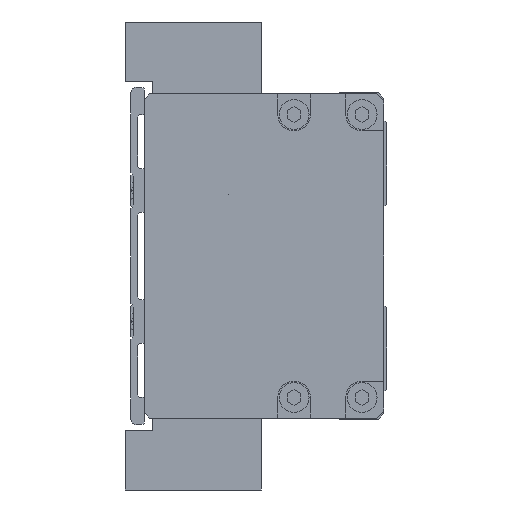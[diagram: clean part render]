
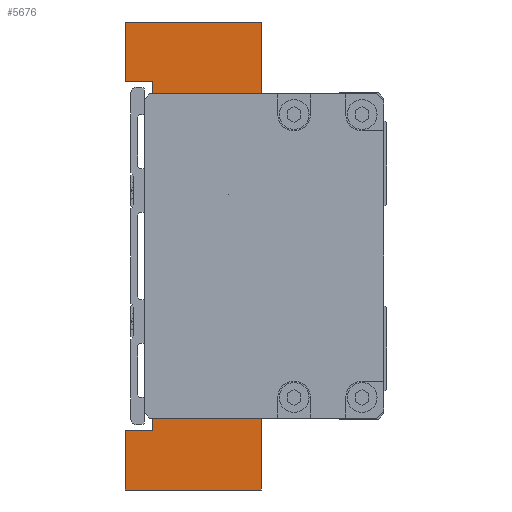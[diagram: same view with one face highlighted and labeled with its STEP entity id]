
A CAD part, left-side view. The second image highlights one B-rep face of the part: STEP entity #5676.
In plain terms, the highlighted planar face has unit normal (-1, 0, 0).
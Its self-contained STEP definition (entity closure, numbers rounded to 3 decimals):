
#113 = CARTESIAN_POINT ( 'NONE',  ( -77., 10., 21. ) ) ;
#220 = ORIENTED_EDGE ( 'NONE', *, *, #24045, .F. ) ;
#331 = VERTEX_POINT ( 'NONE', #3450 ) ;
#706 = CARTESIAN_POINT ( 'NONE',  ( -77., 25., 32. ) ) ;
#882 = DIRECTION ( 'NONE',  ( 0., -1., 0. ) ) ;
#1141 = LINE ( 'NONE', #3845, #4414 ) ;
#1205 = LINE ( 'NONE', #4265, #22970 ) ;
#1433 = EDGE_CURVE ( 'NONE', #9585, #9850, #24641, .T. ) ;
#1503 = VERTEX_POINT ( 'NONE', #23218 ) ;
#1765 = CARTESIAN_POINT ( 'NONE',  ( -77., 20., 32. ) ) ;
#1856 = LINE ( 'NONE', #13575, #11739 ) ;
#1953 = DIRECTION ( 'NONE',  ( 0., -1., 0. ) ) ;
#2100 = EDGE_CURVE ( 'NONE', #6749, #2668, #7409, .T. ) ;
#2294 = CARTESIAN_POINT ( 'NONE',  ( -77., 10., 21. ) ) ;
#2668 = VERTEX_POINT ( 'NONE', #12195 ) ;
#2875 = LINE ( 'NONE', #11184, #3837 ) ;
#2978 = DIRECTION ( 'NONE',  ( 0., 1., 0. ) ) ;
#3074 = CARTESIAN_POINT ( 'NONE',  ( -77., 25., -32. ) ) ;
#3316 = VERTEX_POINT ( 'NONE', #22501 ) ;
#3450 = CARTESIAN_POINT ( 'NONE',  ( -77., 20., -32. ) ) ;
#3514 = VERTEX_POINT ( 'NONE', #14501 ) ;
#3837 = VECTOR ( 'NONE', #5072, 1000. ) ;
#3845 = CARTESIAN_POINT ( 'NONE',  ( -77., 0., 28. ) ) ;
#4165 = VECTOR ( 'NONE', #17752, 1000. ) ;
#4231 = LINE ( 'NONE', #24236, #23061 ) ;
#4253 = LINE ( 'NONE', #8426, #10829 ) ;
#4255 = VERTEX_POINT ( 'NONE', #19059 ) ;
#4265 = CARTESIAN_POINT ( 'NONE',  ( -77., 25., 43. ) ) ;
#4364 = VECTOR ( 'NONE', #25717, 1000. ) ;
#4414 = VECTOR ( 'NONE', #18713, 1000. ) ;
#4420 = DIRECTION ( 'NONE',  ( 0., 0., -1. ) ) ;
#4450 = VECTOR ( 'NONE', #6369, 1000. ) ;
#4503 = EDGE_CURVE ( 'NONE', #17662, #331, #19888, .T. ) ;
#5072 = DIRECTION ( 'NONE',  ( 0., 1., 0. ) ) ;
#5112 = ORIENTED_EDGE ( 'NONE', *, *, #1433, .T. ) ;
#5676 = ADVANCED_FACE ( 'NONE', ( #16506 ), #10874, .F. ) ;
#6141 = VECTOR ( 'NONE', #24620, 1000. ) ;
#6369 = DIRECTION ( 'NONE',  ( 0., 0., -1. ) ) ;
#6749 = VERTEX_POINT ( 'NONE', #2294 ) ;
#7409 = LINE ( 'NONE', #113, #4450 ) ;
#7584 = CARTESIAN_POINT ( 'NONE',  ( -77., 10., 21. ) ) ;
#7707 = EDGE_CURVE ( 'NONE', #14064, #17995, #22649, .T. ) ;
#7749 = VERTEX_POINT ( 'NONE', #1765 ) ;
#7782 = CARTESIAN_POINT ( 'NONE',  ( -77., 25., -43. ) ) ;
#7971 = VECTOR ( 'NONE', #1953, 1000. ) ;
#8426 = CARTESIAN_POINT ( 'NONE',  ( -77., 0., -43. ) ) ;
#8430 = EDGE_CURVE ( 'NONE', #18780, #13111, #1141, .T. ) ;
#8547 = DIRECTION ( 'NONE',  ( 1., 0., 0. ) ) ;
#8600 = VECTOR ( 'NONE', #16830, 1000. ) ;
#8611 = VECTOR ( 'NONE', #882, 1000. ) ;
#9278 = LINE ( 'NONE', #17103, #8600 ) ;
#9585 = VERTEX_POINT ( 'NONE', #21757 ) ;
#9626 = DIRECTION ( 'NONE',  ( 0., 0., -1. ) ) ;
#9764 = LINE ( 'NONE', #706, #4165 ) ;
#9850 = VERTEX_POINT ( 'NONE', #9967 ) ;
#9967 = CARTESIAN_POINT ( 'NONE',  ( -77., 5., 21. ) ) ;
#10678 = VECTOR ( 'NONE', #20603, 1000. ) ;
#10829 = VECTOR ( 'NONE', #17046, 1000. ) ;
#10874 = PLANE ( 'NONE',  #14825 ) ;
#11118 = LINE ( 'NONE', #12187, #12691 ) ;
#11181 = CARTESIAN_POINT ( 'NONE',  ( -77., 5., -21. ) ) ;
#11184 = CARTESIAN_POINT ( 'NONE',  ( -77., 20., 32. ) ) ;
#11739 = VECTOR ( 'NONE', #2978, 1000. ) ;
#11826 = DIRECTION ( 'NONE',  ( 0., -1., 0. ) ) ;
#12121 = VECTOR ( 'NONE', #11826, 1000. ) ;
#12162 = EDGE_CURVE ( 'NONE', #331, #7749, #11118, .T. ) ;
#12187 = CARTESIAN_POINT ( 'NONE',  ( -77., 20., -32. ) ) ;
#12195 = CARTESIAN_POINT ( 'NONE',  ( -77., 10., -21. ) ) ;
#12336 = ORIENTED_EDGE ( 'NONE', *, *, #18131, .F. ) ;
#12469 = ORIENTED_EDGE ( 'NONE', *, *, #18330, .F. ) ;
#12691 = VECTOR ( 'NONE', #16360, 1000. ) ;
#12945 = ORIENTED_EDGE ( 'NONE', *, *, #7707, .F. ) ;
#13111 = VERTEX_POINT ( 'NONE', #19916 ) ;
#13277 = VERTEX_POINT ( 'NONE', #7782 ) ;
#13363 = CARTESIAN_POINT ( 'NONE',  ( -77., 25., -32. ) ) ;
#13575 = CARTESIAN_POINT ( 'NONE',  ( -77., 9., -21. ) ) ;
#13761 = VERTEX_POINT ( 'NONE', #16367 ) ;
#13938 = LINE ( 'NONE', #22977, #7971 ) ;
#14034 = ORIENTED_EDGE ( 'NONE', *, *, #2100, .F. ) ;
#14064 = VERTEX_POINT ( 'NONE', #11181 ) ;
#14092 = VERTEX_POINT ( 'NONE', #19572 ) ;
#14290 = EDGE_CURVE ( 'NONE', #13277, #17662, #14976, .T. ) ;
#14413 = ORIENTED_EDGE ( 'NONE', *, *, #15211, .F. ) ;
#14438 = ORIENTED_EDGE ( 'NONE', *, *, #22490, .T. ) ;
#14501 = CARTESIAN_POINT ( 'NONE',  ( -77., 25., 43. ) ) ;
#14586 = EDGE_CURVE ( 'NONE', #13111, #9850, #26526, .T. ) ;
#14825 = AXIS2_PLACEMENT_3D ( 'NONE', #23453, #8547, #4420 ) ;
#14976 = LINE ( 'NONE', #26949, #10678 ) ;
#15211 = EDGE_CURVE ( 'NONE', #17995, #1503, #26503, .T. ) ;
#15342 = ORIENTED_EDGE ( 'NONE', *, *, #14586, .F. ) ;
#15587 = ORIENTED_EDGE ( 'NONE', *, *, #25106, .F. ) ;
#15698 = EDGE_CURVE ( 'NONE', #14092, #18780, #9278, .T. ) ;
#16360 = DIRECTION ( 'NONE',  ( 0., 0., 1. ) ) ;
#16367 = CARTESIAN_POINT ( 'NONE',  ( -77., 9., -21. ) ) ;
#16506 = FACE_OUTER_BOUND ( 'NONE', #24621, .T. ) ;
#16830 = DIRECTION ( 'NONE',  ( 0., 0., -1. ) ) ;
#17027 = VECTOR ( 'NONE', #26948, 1000. ) ;
#17046 = DIRECTION ( 'NONE',  ( 0., 1., 0. ) ) ;
#17103 = CARTESIAN_POINT ( 'NONE',  ( -77., 0., 43. ) ) ;
#17388 = ORIENTED_EDGE ( 'NONE', *, *, #15698, .F. ) ;
#17495 = CARTESIAN_POINT ( 'NONE',  ( -77., 5., -28. ) ) ;
#17662 = VERTEX_POINT ( 'NONE', #13363 ) ;
#17752 = DIRECTION ( 'NONE',  ( 0., 0., 1. ) ) ;
#17753 = LINE ( 'NONE', #7584, #12121 ) ;
#17995 = VERTEX_POINT ( 'NONE', #22954 ) ;
#18131 = EDGE_CURVE ( 'NONE', #4255, #13277, #4253, .T. ) ;
#18330 = EDGE_CURVE ( 'NONE', #1503, #4255, #4231, .T. ) ;
#18391 = DIRECTION ( 'NONE',  ( 0., -1., 0. ) ) ;
#18713 = DIRECTION ( 'NONE',  ( 0., 1., 0. ) ) ;
#18780 = VERTEX_POINT ( 'NONE', #23826 ) ;
#19059 = CARTESIAN_POINT ( 'NONE',  ( -77., 0., -43. ) ) ;
#19293 = VECTOR ( 'NONE', #25549, 1000. ) ;
#19397 = ORIENTED_EDGE ( 'NONE', *, *, #8430, .F. ) ;
#19572 = CARTESIAN_POINT ( 'NONE',  ( -77., 0., 43. ) ) ;
#19736 = ORIENTED_EDGE ( 'NONE', *, *, #4503, .F. ) ;
#19888 = LINE ( 'NONE', #3074, #8611 ) ;
#19916 = CARTESIAN_POINT ( 'NONE',  ( -77., 5., 28. ) ) ;
#20603 = DIRECTION ( 'NONE',  ( 0., 0., 1. ) ) ;
#21757 = CARTESIAN_POINT ( 'NONE',  ( -77., 9., 21. ) ) ;
#22490 = EDGE_CURVE ( 'NONE', #6749, #9585, #17753, .T. ) ;
#22501 = CARTESIAN_POINT ( 'NONE',  ( -77., 25., 32. ) ) ;
#22649 = LINE ( 'NONE', #22813, #17027 ) ;
#22813 = CARTESIAN_POINT ( 'NONE',  ( -77., 5., -21. ) ) ;
#22954 = CARTESIAN_POINT ( 'NONE',  ( -77., 5., -28. ) ) ;
#22970 = VECTOR ( 'NONE', #18391, 1000. ) ;
#22977 = CARTESIAN_POINT ( 'NONE',  ( -77., 9., -21. ) ) ;
#23061 = VECTOR ( 'NONE', #9626, 1000. ) ;
#23218 = CARTESIAN_POINT ( 'NONE',  ( -77., 0., -28. ) ) ;
#23451 = CARTESIAN_POINT ( 'NONE',  ( -77., 5., 28. ) ) ;
#23453 = CARTESIAN_POINT ( 'NONE',  ( -77., 10., 0. ) ) ;
#23754 = ORIENTED_EDGE ( 'NONE', *, *, #14290, .F. ) ;
#23758 = ORIENTED_EDGE ( 'NONE', *, *, #27096, .F. ) ;
#23826 = CARTESIAN_POINT ( 'NONE',  ( -77., 0., 28. ) ) ;
#24045 = EDGE_CURVE ( 'NONE', #3316, #3514, #9764, .T. ) ;
#24236 = CARTESIAN_POINT ( 'NONE',  ( -77., 0., -28. ) ) ;
#24282 = EDGE_CURVE ( 'NONE', #3514, #14092, #1205, .T. ) ;
#24620 = DIRECTION ( 'NONE',  ( 0., -1., 0. ) ) ;
#24621 = EDGE_LOOP ( 'NONE', ( #14438, #5112, #15342, #19397, #17388, #26626, #220, #15587, #25304, #19736, #23754, #12336, #12469, #14413, #12945, #23758, #25139, #14034 ) ) ;
#24641 = LINE ( 'NONE', #26644, #6141 ) ;
#25106 = EDGE_CURVE ( 'NONE', #7749, #3316, #2875, .T. ) ;
#25139 = ORIENTED_EDGE ( 'NONE', *, *, #25187, .T. ) ;
#25187 = EDGE_CURVE ( 'NONE', #13761, #2668, #1856, .T. ) ;
#25304 = ORIENTED_EDGE ( 'NONE', *, *, #12162, .F. ) ;
#25549 = DIRECTION ( 'NONE',  ( 0., 0., -1. ) ) ;
#25717 = DIRECTION ( 'NONE',  ( 0., -1., 0. ) ) ;
#26503 = LINE ( 'NONE', #17495, #4364 ) ;
#26526 = LINE ( 'NONE', #23451, #19293 ) ;
#26626 = ORIENTED_EDGE ( 'NONE', *, *, #24282, .F. ) ;
#26644 = CARTESIAN_POINT ( 'NONE',  ( -77., 9., 21. ) ) ;
#26948 = DIRECTION ( 'NONE',  ( 0., 0., -1. ) ) ;
#26949 = CARTESIAN_POINT ( 'NONE',  ( -77., 25., -43. ) ) ;
#27096 = EDGE_CURVE ( 'NONE', #13761, #14064, #13938, .T. ) ;
